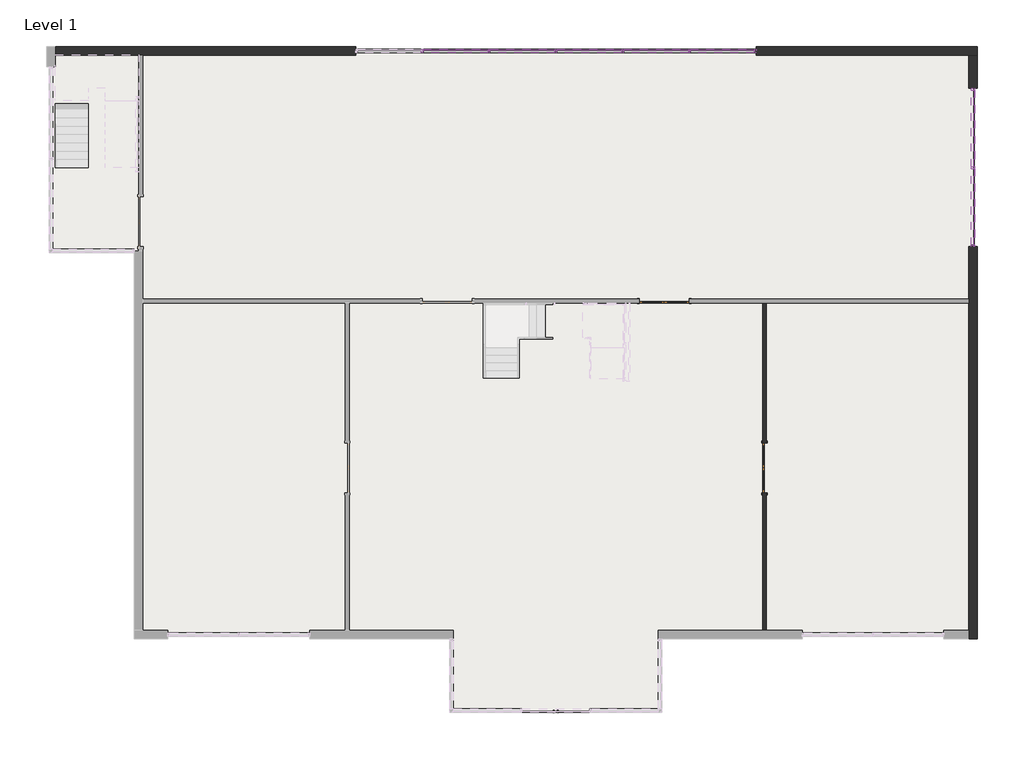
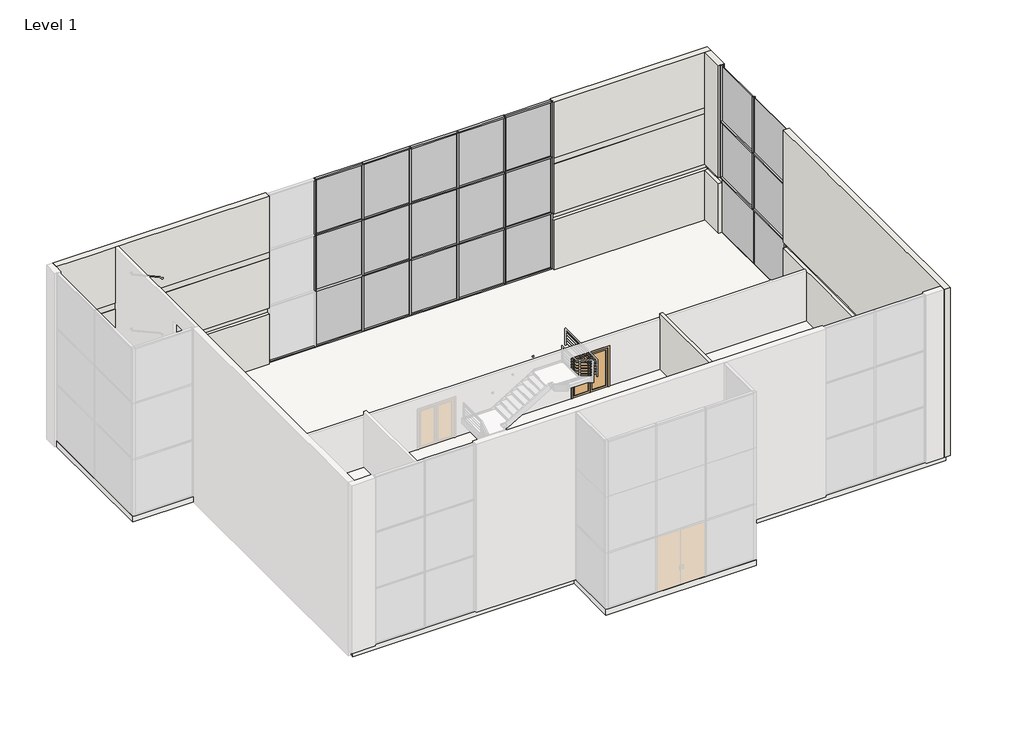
# One storey, part 3 of 7: 47 members, 21 plates, 3 walls, 2 doors, 1 slab.
"""IFC4 building model written with IfcOpenShell, lengths in millimetres."""

from ifc_helpers import new_model, si_unit, origin, place, context, project, spatial, faceted_brep, transform, mapped, element, save
from components import door_3f2f997e, member_eaba9652, member_3f395ae9, member_3b4a0b45, member_11459e8a, member_2d95a7ea, member_6c7b7f5c, member_ca91947d, system_panel_glazed_56108ee3, system_panel_glazed_d3fe5688, system_panel_glazed_d08b41f0, system_panel_glazed_c811d781, system_panel_glazed_ece86c27, system_panel_glazed_48a96432

model = new_model("IFC4")

# Units and contexts
model_context = context("Model", 3, world=origin())
ifc_project = project(units=[si_unit("LENGTHUNIT", "METRE", prefix="MILLI")], contexts=[model_context])

# Site, building, storey
site = spatial("IfcSite", under=ifc_project)
building = spatial("IfcBuilding", under=site)
storey = spatial("IfcBuildingStorey", under=building, Name="Level 1", Elevation=0.0)

# Doors
placement = place(None, origin())
door_shape = door_3f2f997e(model_context)
element("IfcDoor", 1, ObjectType="Door-Double-Glass : 72\" x 84\"", at=placement, inside=storey, context=model_context, shape_type="MappedRepresentation", body=[
    mapped(door_shape, transform((4533.463868, 513.5983604, 0.0), x_axis=(0.0, 1.0, 0.0), y_axis=(-1.0, 0.0, 0.0), z_axis=(0.0, 0.0, 1.0))),
])
element("IfcDoor", 2, ObjectType="Door-Double-Glass : 72\" x 84\"", at=placement, inside=storey, context=model_context, shape_type="MappedRepresentation", body=[
    mapped(door_shape, transform((873.482618, 6611.9796104, 0.0), x_axis=(-1.0, 0.0, 0.0), y_axis=(0.0, -1.0, 0.0), z_axis=(0.0, 0.0, 1.0))),
])

# Members
member_shape = member_eaba9652(model_context)
element("IfcMember", 3, ObjectType="Rectangular Mullion : 2.5\" x 5\" rectangular", at=placement, inside=storey, context=model_context, shape_type="MappedRepresentation", body=[
    mapped(member_shape, transform((1787.8826178, 15753.5983604, 0.0), x_axis=(-1.0, 0.0, 0.0), y_axis=(0.0, 1.0, 0.0), z_axis=(0.0, 0.0, -1.0))),
])
element("IfcMember", 4, ObjectType="Rectangular Mullion : 2.5\" x 5\" rectangular", at=placement, inside=storey, context=model_context, shape_type="MappedRepresentation", body=[
    mapped(member_shape, transform((-650.5173821, 15753.5983604, 0.0), x_axis=(-1.0, 0.0, 0.0), y_axis=(0.0, 1.0, 0.0), z_axis=(0.0, 0.0, -1.0))),
])
element("IfcMember", 5, ObjectType="Rectangular Mullion : 2.5\" x 5\" rectangular", at=placement, inside=storey, context=model_context, shape_type="MappedRepresentation", body=[
    mapped(member_shape, transform((-3088.917382, 15753.5983604, 0.0), x_axis=(-1.0, 0.0, 0.0), y_axis=(0.0, 1.0, 0.0), z_axis=(0.0, 0.0, -1.0))),
])
element("IfcMember", 6, ObjectType="Rectangular Mullion : 2.5\" x 5\" rectangular", at=placement, inside=storey, context=model_context, shape_type="MappedRepresentation", body=[
    mapped(member_shape, transform((-5527.3173819, 15753.5983604, 0.0), x_axis=(-1.0, 0.0, 0.0), y_axis=(0.0, 1.0, 0.0), z_axis=(0.0, 0.0, -1.0))),
])
element("IfcMember", 7, ObjectType="Rectangular Mullion : 2.5\" x 5\" rectangular", at=placement, inside=storey, context=model_context, shape_type="MappedRepresentation", body=[
    mapped(member_shape, transform((1787.8826178, 15753.5983604, 3048.0), x_axis=(-1.0, 0.0, 0.0), y_axis=(0.0, 1.0, 0.0), z_axis=(0.0, 0.0, -1.0))),
])
element("IfcMember", 8, ObjectType="Rectangular Mullion : 2.5\" x 5\" rectangular", at=placement, inside=storey, context=model_context, shape_type="MappedRepresentation", body=[
    mapped(member_shape, transform((-650.5173821, 15753.5983604, 3048.0), x_axis=(-1.0, 0.0, 0.0), y_axis=(0.0, 1.0, 0.0), z_axis=(0.0, 0.0, -1.0))),
])
element("IfcMember", 9, ObjectType="Rectangular Mullion : 2.5\" x 5\" rectangular", at=placement, inside=storey, context=model_context, shape_type="MappedRepresentation", body=[
    mapped(member_shape, transform((-3088.917382, 15753.5983604, 3048.0), x_axis=(-1.0, 0.0, 0.0), y_axis=(0.0, 1.0, 0.0), z_axis=(0.0, 0.0, -1.0))),
])
element("IfcMember", 10, ObjectType="Rectangular Mullion : 2.5\" x 5\" rectangular", at=placement, inside=storey, context=model_context, shape_type="MappedRepresentation", body=[
    mapped(member_shape, transform((-5527.3173819, 15753.5983604, 3048.0), x_axis=(-1.0, 0.0, 0.0), y_axis=(0.0, 1.0, 0.0), z_axis=(0.0, 0.0, -1.0))),
])
element("IfcMember", 11, ObjectType="Rectangular Mullion : 2.5\" x 5\" rectangular", at=placement, inside=storey, context=model_context, shape_type="MappedRepresentation", body=[
    mapped(member_shape, transform((-7965.7173818, 15753.5983604, 3048.0), x_axis=(-1.0, 0.0, 0.0), y_axis=(0.0, 1.0, 0.0), z_axis=(0.0, 0.0, -1.0))),
])
element("IfcMember", 12, ObjectType="Rectangular Mullion : 2.5\" x 5\" rectangular", at=placement, inside=storey, context=model_context, shape_type="MappedRepresentation", body=[
    mapped(member_shape, transform((12151.082618, 11486.3983604, 3048.0), x_axis=(0.0, 1.0, 0.0), y_axis=(1.0, 0.0, 0.0), z_axis=(0.0, 0.0, -1.0))),
])
element("IfcMember", 13, ObjectType="Rectangular Mullion : 2.5\" x 5\" rectangular", at=placement, inside=storey, context=model_context, shape_type="MappedRepresentation", body=[
    mapped(member_shape, transform((1787.8826178, 15753.5983604, 6096.0), x_axis=(-1.0, 0.0, 0.0), y_axis=(0.0, 1.0, 0.0), z_axis=(0.0, 0.0, -1.0))),
])
element("IfcMember", 14, ObjectType="Rectangular Mullion : 2.5\" x 5\" rectangular", at=placement, inside=storey, context=model_context, shape_type="MappedRepresentation", body=[
    mapped(member_shape, transform((-650.5173821, 15753.5983604, 6096.0), x_axis=(-1.0, 0.0, 0.0), y_axis=(0.0, 1.0, 0.0), z_axis=(0.0, 0.0, -1.0))),
])
element("IfcMember", 15, ObjectType="Rectangular Mullion : 2.5\" x 5\" rectangular", at=placement, inside=storey, context=model_context, shape_type="MappedRepresentation", body=[
    mapped(member_shape, transform((-3088.917382, 15753.5983604, 6096.0), x_axis=(-1.0, 0.0, 0.0), y_axis=(0.0, 1.0, 0.0), z_axis=(0.0, 0.0, -1.0))),
])
element("IfcMember", 16, ObjectType="Rectangular Mullion : 2.5\" x 5\" rectangular", at=placement, inside=storey, context=model_context, shape_type="MappedRepresentation", body=[
    mapped(member_shape, transform((-5527.3173819, 15753.5983604, 6096.0), x_axis=(-1.0, 0.0, 0.0), y_axis=(0.0, 1.0, 0.0), z_axis=(0.0, 0.0, -1.0))),
])
element("IfcMember", 17, ObjectType="Rectangular Mullion : 2.5\" x 5\" rectangular", at=placement, inside=storey, context=model_context, shape_type="MappedRepresentation", body=[
    mapped(member_shape, transform((-7965.7173818, 15753.5983604, 6096.0), x_axis=(-1.0, 0.0, 0.0), y_axis=(0.0, 1.0, 0.0), z_axis=(0.0, 0.0, -1.0))),
])
element("IfcMember", 18, ObjectType="Rectangular Mullion : 2.5\" x 5\" rectangular", at=placement, inside=storey, context=model_context, shape_type="MappedRepresentation", body=[
    mapped(member_shape, transform((12151.082618, 11486.3983604, 6096.0), x_axis=(0.0, 1.0, 0.0), y_axis=(1.0, 0.0, 0.0), z_axis=(0.0, 0.0, -1.0))),
])
member_2_shape = member_3f395ae9(model_context)
element("IfcMember", 19, ObjectType="Rectangular Mullion : 2.5\" x 5\" rectangular", at=placement, inside=storey, context=model_context, shape_type="MappedRepresentation", body=[
    mapped(member_2_shape, transform((4226.282618, 15753.5983604, 9144.0), x_axis=(1.0, 0.0, 0.0), y_axis=(0.0, 1.0, 0.0), z_axis=(0.0, 0.0, 1.0))),
])
element("IfcMember", 20, ObjectType="Rectangular Mullion : 2.5\" x 5\" rectangular", at=placement, inside=storey, context=model_context, shape_type="MappedRepresentation", body=[
    mapped(member_2_shape, transform((12151.082618, 14381.9983604, 3048.0), x_axis=(0.0, 1.0, 0.0), y_axis=(1.0, 0.0, 0.0), z_axis=(0.0, 0.0, -1.0))),
])
element("IfcMember", 21, ObjectType="Rectangular Mullion : 2.5\" x 5\" rectangular", at=placement, inside=storey, context=model_context, shape_type="MappedRepresentation", body=[
    mapped(member_2_shape, transform((12151.082618, 14381.9983604, 6096.0), x_axis=(0.0, 1.0, 0.0), y_axis=(1.0, 0.0, 0.0), z_axis=(0.0, 0.0, -1.0))),
])
element("IfcMember", 22, ObjectType="Rectangular Mullion : 2.5\" x 5\" rectangular", at=placement, inside=storey, context=model_context, shape_type="MappedRepresentation", body=[
    mapped(member_2_shape, transform((4226.282618, 15753.5983604, 3048.0), x_axis=(1.0, 0.0, 0.0), y_axis=(0.0, 1.0, 0.0), z_axis=(0.0, 0.0, 1.0))),
])
element("IfcMember", 23, ObjectType="Rectangular Mullion : 2.5\" x 5\" rectangular", at=placement, inside=storey, context=model_context, shape_type="MappedRepresentation", body=[
    mapped(member_2_shape, transform((12151.082618, 8590.7983604, 3048.0), x_axis=(0.0, -1.0, 0.0), y_axis=(1.0, 0.0, 0.0), z_axis=(0.0, 0.0, 1.0))),
])
element("IfcMember", 24, ObjectType="Rectangular Mullion : 2.5\" x 5\" rectangular", at=placement, inside=storey, context=model_context, shape_type="MappedRepresentation", body=[
    mapped(member_2_shape, transform((4226.282618, 15753.5983604, 6096.0), x_axis=(1.0, 0.0, 0.0), y_axis=(0.0, 1.0, 0.0), z_axis=(0.0, 0.0, 1.0))),
])
element("IfcMember", 25, ObjectType="Rectangular Mullion : 2.5\" x 5\" rectangular", at=placement, inside=storey, context=model_context, shape_type="MappedRepresentation", body=[
    mapped(member_2_shape, transform((12151.082618, 8590.7983604, 6096.0), x_axis=(0.0, -1.0, 0.0), y_axis=(1.0, 0.0, 0.0), z_axis=(0.0, 0.0, 1.0))),
])
member_3_shape = member_3b4a0b45(model_context)
element("IfcMember", 26, ObjectType="Rectangular Mullion : 2.5\" x 5\" rectangular", at=placement, inside=storey, context=model_context, shape_type="MappedRepresentation", body=[
    mapped(member_3_shape, transform((12151.082618, 11454.6483604, 3048.0), x_axis=(0.0, 0.0, 1.0), y_axis=(1.0, 0.0, 0.0), z_axis=(0.0, 1.0, 0.0))),
])
element("IfcMember", 27, ObjectType="Rectangular Mullion : 2.5\" x 5\" rectangular", at=placement, inside=storey, context=model_context, shape_type="MappedRepresentation", body=[
    mapped(member_3_shape, transform((12151.082618, 14318.4983604, 3048.0), x_axis=(0.0, 0.0, 1.0), y_axis=(1.0, 0.0, 0.0), z_axis=(0.0, 1.0, 0.0))),
])
element("IfcMember", 28, ObjectType="Rectangular Mullion : 2.5\" x 5\" rectangular", at=placement, inside=storey, context=model_context, shape_type="MappedRepresentation", body=[
    mapped(member_3_shape, transform((12151.082618, 11454.6483604, 6096.0), x_axis=(0.0, 0.0, 1.0), y_axis=(1.0, 0.0, 0.0), z_axis=(0.0, 1.0, 0.0))),
])
element("IfcMember", 29, ObjectType="Rectangular Mullion : 2.5\" x 5\" rectangular", at=placement, inside=storey, context=model_context, shape_type="MappedRepresentation", body=[
    mapped(member_3_shape, transform((12151.082618, 14318.4983604, 6096.0), x_axis=(0.0, 0.0, 1.0), y_axis=(1.0, 0.0, 0.0), z_axis=(0.0, 1.0, 0.0))),
])
member_4_shape = member_11459e8a(model_context)
element("IfcMember", 30, ObjectType="Rectangular Mullion : 2.5\" x 5\" rectangular", at=placement, inside=storey, context=model_context, shape_type="MappedRepresentation", body=[
    mapped(member_4_shape, transform((1819.6326178, 15753.5983604, 9144.0), x_axis=(0.0, 0.0, 1.0), y_axis=(0.0, 1.0, 0.0), z_axis=(-1.0, 0.0, 0.0))),
])
element("IfcMember", 31, ObjectType="Rectangular Mullion : 2.5\" x 5\" rectangular", at=placement, inside=storey, context=model_context, shape_type="MappedRepresentation", body=[
    mapped(member_4_shape, transform((4162.782618, 15753.5983604, 0.0), x_axis=(0.0, 0.0, -1.0), y_axis=(0.0, 1.0, 0.0), z_axis=(1.0, 0.0, 0.0))),
])
element("IfcMember", 32, ObjectType="Rectangular Mullion : 2.5\" x 5\" rectangular", at=placement, inside=storey, context=model_context, shape_type="MappedRepresentation", body=[
    mapped(member_4_shape, transform((-7997.4673818, 15753.5983604, 0.0), x_axis=(0.0, 0.0, -1.0), y_axis=(0.0, 1.0, 0.0), z_axis=(1.0, 0.0, 0.0))),
])
member_5_shape = member_2d95a7ea(model_context)
element("IfcMember", 33, ObjectType="Rectangular Mullion : 2.5\" x 5\" rectangular", at=placement, inside=storey, context=model_context, shape_type="MappedRepresentation", body=[
    mapped(member_5_shape, transform((1819.6326178, 15753.5983604, 3048.0), x_axis=(0.0, 0.0, 1.0), y_axis=(0.0, 1.0, 0.0), z_axis=(-1.0, 0.0, 0.0))),
])
element("IfcMember", 34, ObjectType="Rectangular Mullion : 2.5\" x 5\" rectangular", at=placement, inside=storey, context=model_context, shape_type="MappedRepresentation", body=[
    mapped(member_5_shape, transform((1819.6326178, 15753.5983604, 6096.0), x_axis=(0.0, 0.0, 1.0), y_axis=(0.0, 1.0, 0.0), z_axis=(-1.0, 0.0, 0.0))),
])
member_6_shape = member_6c7b7f5c(model_context)
element("IfcMember", 35, ObjectType="Rectangular Mullion : 2.5\" x 5\" rectangular", at=placement, inside=storey, context=model_context, shape_type="MappedRepresentation", body=[
    mapped(member_6_shape, transform((-618.7673821, 15753.5983604, 3048.0), x_axis=(0.0, 0.0, 1.0), y_axis=(0.0, 1.0, 0.0), z_axis=(-1.0, 0.0, 0.0))),
])
element("IfcMember", 36, ObjectType="Rectangular Mullion : 2.5\" x 5\" rectangular", at=placement, inside=storey, context=model_context, shape_type="MappedRepresentation", body=[
    mapped(member_6_shape, transform((-3057.167382, 15753.5983604, 3048.0), x_axis=(0.0, 0.0, 1.0), y_axis=(0.0, 1.0, 0.0), z_axis=(-1.0, 0.0, 0.0))),
])
element("IfcMember", 37, ObjectType="Rectangular Mullion : 2.5\" x 5\" rectangular", at=placement, inside=storey, context=model_context, shape_type="MappedRepresentation", body=[
    mapped(member_6_shape, transform((-5495.5673819, 15753.5983604, 3048.0), x_axis=(0.0, 0.0, 1.0), y_axis=(0.0, 1.0, 0.0), z_axis=(-1.0, 0.0, 0.0))),
])
element("IfcMember", 38, ObjectType="Rectangular Mullion : 2.5\" x 5\" rectangular", at=placement, inside=storey, context=model_context, shape_type="MappedRepresentation", body=[
    mapped(member_6_shape, transform((-618.7673821, 15753.5983604, 6096.0), x_axis=(0.0, 0.0, 1.0), y_axis=(0.0, 1.0, 0.0), z_axis=(-1.0, 0.0, 0.0))),
])
element("IfcMember", 39, ObjectType="Rectangular Mullion : 2.5\" x 5\" rectangular", at=placement, inside=storey, context=model_context, shape_type="MappedRepresentation", body=[
    mapped(member_6_shape, transform((-3057.167382, 15753.5983604, 6096.0), x_axis=(0.0, 0.0, 1.0), y_axis=(0.0, 1.0, 0.0), z_axis=(-1.0, 0.0, 0.0))),
])
element("IfcMember", 40, ObjectType="Rectangular Mullion : 2.5\" x 5\" rectangular", at=placement, inside=storey, context=model_context, shape_type="MappedRepresentation", body=[
    mapped(member_6_shape, transform((-5495.5673819, 15753.5983604, 6096.0), x_axis=(0.0, 0.0, 1.0), y_axis=(0.0, 1.0, 0.0), z_axis=(-1.0, 0.0, 0.0))),
])
element("IfcMember", 41, ObjectType="Rectangular Mullion : 2.5\" x 5\" rectangular", at=placement, inside=storey, context=model_context, shape_type="MappedRepresentation", body=[
    mapped(member_6_shape, transform((-7933.9673818, 15753.5983604, 6096.0), x_axis=(0.0, 0.0, 1.0), y_axis=(0.0, 1.0, 0.0), z_axis=(-1.0, 0.0, 0.0))),
])
member_7_shape = member_ca91947d(model_context)
element("IfcMember", 42, ObjectType="Rectangular Mullion : 2.5\" x 5\" rectangular", at=placement, inside=storey, context=model_context, shape_type="MappedRepresentation", body=[
    mapped(member_7_shape, transform((1756.1326178, 15753.5983604, 0.0), x_axis=(0.0, 0.0, -1.0), y_axis=(0.0, 1.0, 0.0), z_axis=(1.0, 0.0, 0.0))),
])
element("IfcMember", 43, ObjectType="Rectangular Mullion : 2.5\" x 5\" rectangular", at=placement, inside=storey, context=model_context, shape_type="MappedRepresentation", body=[
    mapped(member_7_shape, transform((-682.2673821, 15753.5983604, 0.0), x_axis=(0.0, 0.0, -1.0), y_axis=(0.0, 1.0, 0.0), z_axis=(1.0, 0.0, 0.0))),
])
element("IfcMember", 44, ObjectType="Rectangular Mullion : 2.5\" x 5\" rectangular", at=placement, inside=storey, context=model_context, shape_type="MappedRepresentation", body=[
    mapped(member_7_shape, transform((-3120.667382, 15753.5983604, 0.0), x_axis=(0.0, 0.0, -1.0), y_axis=(0.0, 1.0, 0.0), z_axis=(1.0, 0.0, 0.0))),
])
element("IfcMember", 45, ObjectType="Rectangular Mullion : 2.5\" x 5\" rectangular", at=placement, inside=storey, context=model_context, shape_type="MappedRepresentation", body=[
    mapped(member_7_shape, transform((-5559.0673819, 15753.5983604, 0.0), x_axis=(0.0, 0.0, -1.0), y_axis=(0.0, 1.0, 0.0), z_axis=(1.0, 0.0, 0.0))),
])
element("IfcMember", 46, ObjectType="Rectangular Mullion : 2.5\" x 5\" rectangular", at=placement, inside=storey, context=model_context, shape_type="MappedRepresentation", body=[
    mapped(member_7_shape, transform((-618.7673821, 15753.5983604, 9144.0), x_axis=(0.0, 0.0, 1.0), y_axis=(0.0, 1.0, 0.0), z_axis=(-1.0, 0.0, 0.0))),
])
element("IfcMember", 47, ObjectType="Rectangular Mullion : 2.5\" x 5\" rectangular", at=placement, inside=storey, context=model_context, shape_type="MappedRepresentation", body=[
    mapped(member_7_shape, transform((-3057.167382, 15753.5983604, 9144.0), x_axis=(0.0, 0.0, 1.0), y_axis=(0.0, 1.0, 0.0), z_axis=(-1.0, 0.0, 0.0))),
])
element("IfcMember", 48, ObjectType="Rectangular Mullion : 2.5\" x 5\" rectangular", at=placement, inside=storey, context=model_context, shape_type="MappedRepresentation", body=[
    mapped(member_7_shape, transform((-5495.5673819, 15753.5983604, 9144.0), x_axis=(0.0, 0.0, 1.0), y_axis=(0.0, 1.0, 0.0), z_axis=(-1.0, 0.0, 0.0))),
])
element("IfcMember", 49, ObjectType="Rectangular Mullion : 2.5\" x 5\" rectangular", at=placement, inside=storey, context=model_context, shape_type="MappedRepresentation", body=[
    mapped(member_7_shape, transform((-7933.9673818, 15753.5983604, 9144.0), x_axis=(0.0, 0.0, 1.0), y_axis=(0.0, 1.0, 0.0), z_axis=(-1.0, 0.0, 0.0))),
])

# Plates
system_panel_glazed_shape = system_panel_glazed_56108ee3(model_context)
element("IfcPlate", 50, ObjectType="System Panel : Glazed", at=placement, inside=storey, context=model_context, shape_type="MappedRepresentation", body=[
    mapped(system_panel_glazed_shape, transform((12151.082618, 10054.4733604, 3079.75), x_axis=(0.0, 1.0, 0.0), y_axis=(-1.0, 0.0, 0.0), z_axis=(0.0, 0.0, 1.0))),
])
element("IfcPlate", 51, ObjectType="System Panel : Glazed", at=placement, inside=storey, context=model_context, shape_type="MappedRepresentation", body=[
    mapped(system_panel_glazed_shape, transform((12151.082618, 12918.3233604, 3079.75), x_axis=(0.0, 1.0, 0.0), y_axis=(-1.0, 0.0, 0.0), z_axis=(0.0, 0.0, 1.0))),
])
system_panel_glazed_2_shape = system_panel_glazed_d3fe5688(model_context)
element("IfcPlate", 52, ObjectType="System Panel : Glazed", at=placement, inside=storey, context=model_context, shape_type="MappedRepresentation", body=[
    mapped(system_panel_glazed_2_shape, transform((12151.082618, 10054.4733604, 63.5), x_axis=(0.0, 1.0, 0.0), y_axis=(-1.0, 0.0, 0.0), z_axis=(0.0, 0.0, 1.0))),
])
element("IfcPlate", 53, ObjectType="System Panel : Glazed", at=placement, inside=storey, context=model_context, shape_type="MappedRepresentation", body=[
    mapped(system_panel_glazed_2_shape, transform((12151.082618, 12918.3233604, 63.5), x_axis=(0.0, 1.0, 0.0), y_axis=(-1.0, 0.0, 0.0), z_axis=(0.0, 0.0, 1.0))),
])
element("IfcPlate", 54, ObjectType="System Panel : Glazed", at=placement, inside=storey, context=model_context, shape_type="MappedRepresentation", body=[
    mapped(system_panel_glazed_2_shape, transform((12151.082618, 10054.4733604, 6127.75), x_axis=(0.0, 1.0, 0.0), y_axis=(-1.0, 0.0, 0.0), z_axis=(0.0, 0.0, 1.0))),
])
element("IfcPlate", 55, ObjectType="System Panel : Glazed", at=placement, inside=storey, context=model_context, shape_type="MappedRepresentation", body=[
    mapped(system_panel_glazed_2_shape, transform((12151.082618, 12918.3233604, 6127.75), x_axis=(0.0, 1.0, 0.0), y_axis=(-1.0, 0.0, 0.0), z_axis=(0.0, 0.0, 1.0))),
])
system_panel_glazed_3_shape = system_panel_glazed_d08b41f0(model_context)
element("IfcPlate", 56, ObjectType="System Panel : Glazed", at=placement, inside=storey, context=model_context, shape_type="MappedRepresentation", body=[
    mapped(system_panel_glazed_3_shape, transform((2991.2076179, 15753.5983604, 63.5), x_axis=(-1.0, 0.0, 0.0), y_axis=(0.0, -1.0, 0.0), z_axis=(0.0, 0.0, 1.0))),
])
element("IfcPlate", 57, ObjectType="System Panel : Glazed", at=placement, inside=storey, context=model_context, shape_type="MappedRepresentation", body=[
    mapped(system_panel_glazed_3_shape, transform((2991.2076179, 15753.5983604, 6127.75), x_axis=(-1.0, 0.0, 0.0), y_axis=(0.0, -1.0, 0.0), z_axis=(0.0, 0.0, 1.0))),
])
system_panel_glazed_4_shape = system_panel_glazed_c811d781(model_context)
element("IfcPlate", 58, ObjectType="System Panel : Glazed", at=placement, inside=storey, context=model_context, shape_type="MappedRepresentation", body=[
    mapped(system_panel_glazed_4_shape, transform((568.6826179, 15753.5983604, 63.5), x_axis=(-1.0, 0.0, 0.0), y_axis=(0.0, -1.0, 0.0), z_axis=(0.0, 0.0, 1.0))),
])
element("IfcPlate", 59, ObjectType="System Panel : Glazed", at=placement, inside=storey, context=model_context, shape_type="MappedRepresentation", body=[
    mapped(system_panel_glazed_4_shape, transform((-1869.717382, 15753.5983604, 63.5), x_axis=(-1.0, 0.0, 0.0), y_axis=(0.0, -1.0, 0.0), z_axis=(0.0, 0.0, 1.0))),
])
element("IfcPlate", 60, ObjectType="System Panel : Glazed", at=placement, inside=storey, context=model_context, shape_type="MappedRepresentation", body=[
    mapped(system_panel_glazed_4_shape, transform((-4308.1173819, 15753.5983604, 63.5), x_axis=(-1.0, 0.0, 0.0), y_axis=(0.0, -1.0, 0.0), z_axis=(0.0, 0.0, 1.0))),
])
element("IfcPlate", 61, ObjectType="System Panel : Glazed", at=placement, inside=storey, context=model_context, shape_type="MappedRepresentation", body=[
    mapped(system_panel_glazed_4_shape, transform((-6746.5173818, 15753.5983604, 63.5), x_axis=(-1.0, 0.0, 0.0), y_axis=(0.0, -1.0, 0.0), z_axis=(0.0, 0.0, 1.0))),
])
element("IfcPlate", 62, ObjectType="System Panel : Glazed", at=placement, inside=storey, context=model_context, shape_type="MappedRepresentation", body=[
    mapped(system_panel_glazed_4_shape, transform((568.6826179, 15753.5983604, 6127.75), x_axis=(-1.0, 0.0, 0.0), y_axis=(0.0, -1.0, 0.0), z_axis=(0.0, 0.0, 1.0))),
])
element("IfcPlate", 63, ObjectType="System Panel : Glazed", at=placement, inside=storey, context=model_context, shape_type="MappedRepresentation", body=[
    mapped(system_panel_glazed_4_shape, transform((-1869.717382, 15753.5983604, 6127.75), x_axis=(-1.0, 0.0, 0.0), y_axis=(0.0, -1.0, 0.0), z_axis=(0.0, 0.0, 1.0))),
])
element("IfcPlate", 64, ObjectType="System Panel : Glazed", at=placement, inside=storey, context=model_context, shape_type="MappedRepresentation", body=[
    mapped(system_panel_glazed_4_shape, transform((-4308.1173819, 15753.5983604, 6127.75), x_axis=(-1.0, 0.0, 0.0), y_axis=(0.0, -1.0, 0.0), z_axis=(0.0, 0.0, 1.0))),
])
element("IfcPlate", 65, ObjectType="System Panel : Glazed", at=placement, inside=storey, context=model_context, shape_type="MappedRepresentation", body=[
    mapped(system_panel_glazed_4_shape, transform((-6746.5173818, 15753.5983604, 6127.75), x_axis=(-1.0, 0.0, 0.0), y_axis=(0.0, -1.0, 0.0), z_axis=(0.0, 0.0, 1.0))),
])
system_panel_glazed_5_shape = system_panel_glazed_ece86c27(model_context)
element("IfcPlate", 66, ObjectType="System Panel : Glazed", at=placement, inside=storey, context=model_context, shape_type="MappedRepresentation", body=[
    mapped(system_panel_glazed_5_shape, transform((2991.2076179, 15753.5983604, 3079.75), x_axis=(-1.0, 0.0, 0.0), y_axis=(0.0, -1.0, 0.0), z_axis=(0.0, 0.0, 1.0))),
])
system_panel_glazed_6_shape = system_panel_glazed_48a96432(model_context)
element("IfcPlate", 67, ObjectType="System Panel : Glazed", at=placement, inside=storey, context=model_context, shape_type="MappedRepresentation", body=[
    mapped(system_panel_glazed_6_shape, transform((568.6826179, 15753.5983604, 3079.75), x_axis=(-1.0, 0.0, 0.0), y_axis=(0.0, -1.0, 0.0), z_axis=(0.0, 0.0, 1.0))),
])
element("IfcPlate", 68, ObjectType="System Panel : Glazed", at=placement, inside=storey, context=model_context, shape_type="MappedRepresentation", body=[
    mapped(system_panel_glazed_6_shape, transform((-1869.717382, 15753.5983604, 3079.75), x_axis=(-1.0, 0.0, 0.0), y_axis=(0.0, -1.0, 0.0), z_axis=(0.0, 0.0, 1.0))),
])
element("IfcPlate", 69, ObjectType="System Panel : Glazed", at=placement, inside=storey, context=model_context, shape_type="MappedRepresentation", body=[
    mapped(system_panel_glazed_6_shape, transform((-4308.1173819, 15753.5983604, 3079.75), x_axis=(-1.0, 0.0, 0.0), y_axis=(0.0, -1.0, 0.0), z_axis=(0.0, 0.0, 1.0))),
])
element("IfcPlate", 70, ObjectType="System Panel : Glazed", at=placement, inside=storey, context=model_context, shape_type="MappedRepresentation", body=[
    mapped(system_panel_glazed_6_shape, transform((-6746.5173818, 15753.5983604, 3079.75), x_axis=(-1.0, 0.0, 0.0), y_axis=(0.0, -1.0, 0.0), z_axis=(0.0, 0.0, 1.0))),
])

# Slab
element("IfcSlab", 71, ObjectType="Generic - 12\"", at=placement, inside=storey, context=model_context, shape_type="Brep", body=[
    faceted_brep([(12160.607618, 15763.1233604, -304.8), (12160.607618, -5591.9266396, -304.8), (784.582618, -5591.9266396, -304.8), (784.582618, -8420.8516396, -304.8), (-6962.417382, -8420.8516396, -304.8), (-6962.417382, -5591.9266396, -304.8), (-18338.442382, -5591.9266396, -304.8), (-18338.442382, -5426.8266396, -304.8), (-18338.442382, 8374.8983604, -304.8), (-18484.492382, 8374.8983604, -304.8), (-21595.992382, 8374.8983604, -304.8), (-21595.992382, 15185.2733604, -304.8), (-21589.642382, 15185.2733604, -304.8), (-21589.642382, 15763.1233604, -304.8), (12160.607618, 15763.1233604, 0.0), (-21589.642382, 15763.1233604, 0.0), (-21589.642382, 15185.2733604, 0.0), (-21595.992382, 15185.2733604, 0.0), (-21595.992382, 8374.8983604, 0.0), (-18484.492382, 8374.8983604, 0.0), (-18338.442382, 8374.8983604, 0.0), (-18338.442382, -5426.8266396, 0.0), (-18338.442382, -5591.9266396, 0.0), (-6962.417382, -5591.9266396, 0.0), (-6962.417382, -8420.8516396, 0.0), (784.582618, -8420.8516396, 0.0), (784.582618, -5591.9266396, 0.0), (12160.607618, -5591.9266396, 0.0)], [[[0, 1, 2, 3, 4, 5, 6, 7, 8, 9, 10, 11, 12, 13]], [[14, 15, 16, 17, 18, 19, 20, 21, 22, 23, 24, 25, 26, 27]], [[1, 0, 14, 27]], [[2, 1, 27, 26]], [[3, 2, 26, 25]], [[4, 3, 25, 24]], [[5, 4, 24, 23]], [[6, 5, 23, 22]], [[8, 7, 6, 22, 21, 20]], [[10, 9, 8, 20, 19, 18]], [[11, 10, 18, 17]], [[0, 13, 15, 14]], [[12, 11, 17, 16]], [[13, 12, 16, 15]]]),
])

# Walls
element("IfcWall", 72, ObjectType="Exterior - EIFS on Mtl. Stud", at=placement, inside=storey, context=model_context, shape_type="Brep", body=[
    faceted_brep([(12306.657618, 15598.0233604, 0.0), (12306.657618, 15598.0233604, 9144.0), (11995.507618, 15598.0233604, 9144.0), (4226.282618, 15598.0233604, 9144.0), (4226.282618, 15598.0233604, 6096.0), (12008.207618, 15598.0233604, 6096.0), (12008.207618, 15598.0233604, 5772.15), (4226.282618, 15598.0233604, 5772.15), (4226.282618, 15598.0233604, 3048.0), (11995.507618, 15598.0233604, 3048.0), (12160.607618, 15598.0233604, 3048.0), (12160.607618, 15598.0233604, 2724.15), (11995.507618, 15598.0233604, 2724.15), (4226.282618, 15598.0233604, 2724.15), (4226.282618, 15598.0233604, 0.0), (11995.507618, 15598.0233604, 0.0), (12306.657618, 15909.1733604, 9144.0), (12306.657618, 15909.1733604, 0.0), (4226.282618, 15909.1733604, 0.0), (4226.282618, 15909.1733604, 9144.0), (4226.282618, 15763.1233604, 2724.15), (4226.282618, 15763.1233604, 3048.0), (4226.282618, 15610.7233604, 5772.15), (4226.282618, 15610.7233604, 6096.0), (12160.607618, 15763.1233604, 2724.15), (12160.607618, 15763.1233604, 3048.0), (12008.207618, 15610.7233604, 5772.15), (12008.207618, 15610.7233604, 6096.0)], [[[0, 1, 2, 3, 4, 5, 6, 7, 8, 9, 10, 11, 12, 13, 14, 15]], [[16, 17, 18, 19]], [[17, 0, 15, 14, 18]], [[1, 16, 19, 3, 2]], [[1, 0, 17, 16]], [[19, 18, 14, 13, 20, 21, 8, 7, 22, 23, 4, 3]], [[11, 24, 20, 13, 12]], [[25, 10, 9, 8, 21]], [[25, 24, 11, 10]], [[24, 25, 21, 20]], [[26, 22, 7, 6]], [[23, 27, 5, 4]], [[27, 26, 6, 5]], [[26, 27, 23, 22]]]),
    faceted_brep([(-21376.917382, 15598.0233604, 0.0), (-18328.917382, 15598.0233604, 0.0), (-18173.342382, 15598.0233604, 0.0), (-10404.117382, 15598.0233604, 0.0), (-10404.117382, 15598.0233604, 2724.15), (-18328.917382, 15598.0233604, 2724.15), (-21376.917382, 15598.0233604, 2724.15), (-10404.117382, 15598.0233604, 9144.0), (-18173.342382, 15598.0233604, 9144.0), (-18328.917382, 15598.0233604, 9144.0), (-19541.767382, 15598.0233604, 9144.0), (-21376.917382, 15598.0233604, 9144.0), (-21376.917382, 15598.0233604, 6096.0), (-18328.917382, 15598.0233604, 6096.0), (-10404.117382, 15598.0233604, 6096.0), (-21376.917382, 15598.0233604, 3048.0), (-18328.917382, 15598.0233604, 3048.0), (-10404.117382, 15598.0233604, 3048.0), (-10404.117382, 15598.0233604, 5772.15), (-18328.917382, 15598.0233604, 5772.15), (-21376.917382, 15598.0233604, 5772.15), (-10404.117382, 15909.1733604, 0.0), (-21376.917382, 15909.1733604, 0.0), (-21376.917382, 15909.1733604, 9144.0), (-10404.117382, 15909.1733604, 9144.0), (-10404.117382, 15610.7233604, 6096.0), (-10404.117382, 15610.7233604, 5772.15), (-10404.117382, 15763.1233604, 3048.0), (-10404.117382, 15763.1233604, 2724.15), (-21376.917382, 15763.1233604, 2724.15), (-21376.917382, 15763.1233604, 3048.0), (-21376.917382, 15610.7233604, 5772.15), (-21376.917382, 15610.7233604, 6096.0)], [[[0, 1, 2, 3, 4, 5, 6]], [[7, 8, 9, 10, 11, 12, 13, 14]], [[15, 16, 17, 18, 19, 20]], [[21, 22, 23, 24]], [[3, 2, 1, 0, 22, 21]], [[11, 10, 9, 8, 7, 24, 23]], [[21, 24, 7, 14, 25, 26, 18, 17, 27, 28, 4, 3]], [[6, 5, 4, 28, 29]], [[16, 15, 30, 27, 17]], [[28, 27, 30, 29]], [[11, 23, 22, 0, 6, 29, 30, 15, 20, 31, 32, 12]], [[26, 31, 20, 19, 18]], [[32, 25, 14, 13, 12]], [[31, 26, 25, 32]]]),
])
element("IfcWall", 73, ObjectType="Exterior - EIFS on Mtl. Stud", at=placement, inside=storey, context=model_context, shape_type="Brep", body=[
    faceted_brep([(11995.507618, -5737.9766396, 0.0), (11995.507618, -5737.9766396, 9144.0), (11995.507618, -5426.8266396, 9144.0), (11995.507618, 6539.7483604, 9144.0), (11995.507618, 6679.4483604, 9144.0), (11995.507618, 8590.7983604, 9144.0), (11995.507618, 8590.7983604, 3048.0), (11995.507618, 6679.4483604, 3048.0), (11995.507618, 6539.7483604, 3048.0), (11995.507618, 2869.4483604, 3048.0), (11995.507618, 2729.7483604, 3048.0), (11995.507618, 735.8483604, 3048.0), (11995.507618, 596.1483604, 3048.0), (11995.507618, -5426.8266396, 3048.0), (11995.507618, -5591.9266396, 3048.0), (11995.507618, -5591.9266396, 2724.15), (11995.507618, -5426.8266396, 2724.15), (11995.507618, 8590.7983604, 2724.15), (11995.507618, 8590.7983604, 0.0), (11995.507618, 6679.4483604, 0.0), (11995.507618, 6539.7483604, 0.0), (11995.507618, -5426.8266396, 0.0), (12306.657618, -5737.9766396, 9144.0), (12306.657618, -5737.9766396, 0.0), (12306.657618, 8590.7983604, 0.0), (12306.657618, 8590.7983604, 9144.0), (12160.607618, -5591.9266396, 2724.15), (12160.607618, 8590.7983604, 2724.15), (12160.607618, -5591.9266396, 3048.0), (12160.607618, 8590.7983604, 3048.0)], [[[0, 1, 2, 3, 4, 5, 6, 7, 8, 9, 10, 11, 12, 13, 14, 15, 16, 17, 18, 19, 20, 21]], [[22, 23, 24, 25]], [[23, 0, 21, 20, 19, 18, 24]], [[1, 22, 25, 5, 4, 3, 2]], [[1, 0, 23, 22]], [[15, 26, 27, 17, 16]], [[28, 14, 13, 12, 11, 10, 9, 8, 7, 6, 29]], [[26, 28, 29, 27]], [[28, 26, 15, 14]], [[25, 24, 18, 17, 27, 29, 6, 5]]]),
    faceted_brep([(11995.507618, 15598.0233604, 0.0), (11995.507618, 14381.9983604, 0.0), (11995.507618, 14381.9983604, 2724.15), (11995.507618, 15598.0233604, 2724.15), (11995.507618, 14381.9983604, 9144.0), (11995.507618, 15598.0233604, 9144.0), (11995.507618, 15598.0233604, 3048.0), (11995.507618, 14381.9983604, 3048.0), (12306.657618, 15598.0233604, 0.0), (12306.657618, 15598.0233604, 9144.0), (12306.657618, 14381.9983604, 9144.0), (12306.657618, 14381.9983604, 0.0), (12160.607618, 15598.0233604, 2724.15), (12160.607618, 15598.0233604, 3048.0), (12160.607618, 14381.9983604, 2724.15), (12160.607618, 14381.9983604, 3048.0)], [[[0, 1, 2, 3]], [[4, 5, 6, 7]], [[8, 9, 10, 11]], [[0, 8, 11, 1]], [[9, 5, 4, 10]], [[5, 9, 8, 0, 3, 12, 13, 6]], [[14, 12, 3, 2]], [[13, 15, 7, 6]], [[12, 14, 15, 13]], [[11, 10, 4, 7, 15, 14, 2, 1]]]),
])
element("IfcWall", 74, ObjectType="Interior - 5 1/2\" Partition (1-hr)", at=placement, inside=storey, context=model_context, shape_type="Brep", body=[
    faceted_brep([(4461.232618, 6539.7483604, 0.0), (4461.232618, 1427.9983604, 0.0), (4461.232618, 1427.9983604, 2133.6), (4461.232618, -400.8016396, 2133.6), (4461.232618, -400.8016396, 0.0), (4461.232618, -5426.8266396, 0.0), (4461.232618, -5426.8266396, 3048.0), (4461.232618, -400.8016396, 3048.0), (4461.232618, 1427.9983604, 3048.0), (4461.232618, 6539.7483604, 3048.0), (4600.932618, 1427.9983604, 2133.6), (4600.932618, 1427.9983604, 0.0), (4600.932618, 6539.7483604, 0.0), (4600.932618, 6539.7483604, 3048.0), (4600.932618, 1427.9983604, 3048.0), (4600.932618, -400.8016396, 3048.0), (4600.932618, -5426.8266396, 3048.0), (4600.932618, -5426.8266396, 0.0), (4600.932618, -400.8016396, 0.0), (4600.932618, -400.8016396, 2133.6)], [[[0, 1, 2, 3, 4, 5, 6, 7, 8, 9]], [[10, 11, 12, 13, 14, 15, 16, 17, 18, 19]], [[18, 17, 5, 4]], [[12, 11, 1, 0]], [[9, 8, 7, 6, 16, 15, 14, 13]], [[6, 5, 17, 16]], [[0, 9, 13, 12]], [[2, 1, 11, 10]], [[3, 2, 10, 19]], [[4, 3, 19, 18]]]),
])

save(model, "model.ifc")
